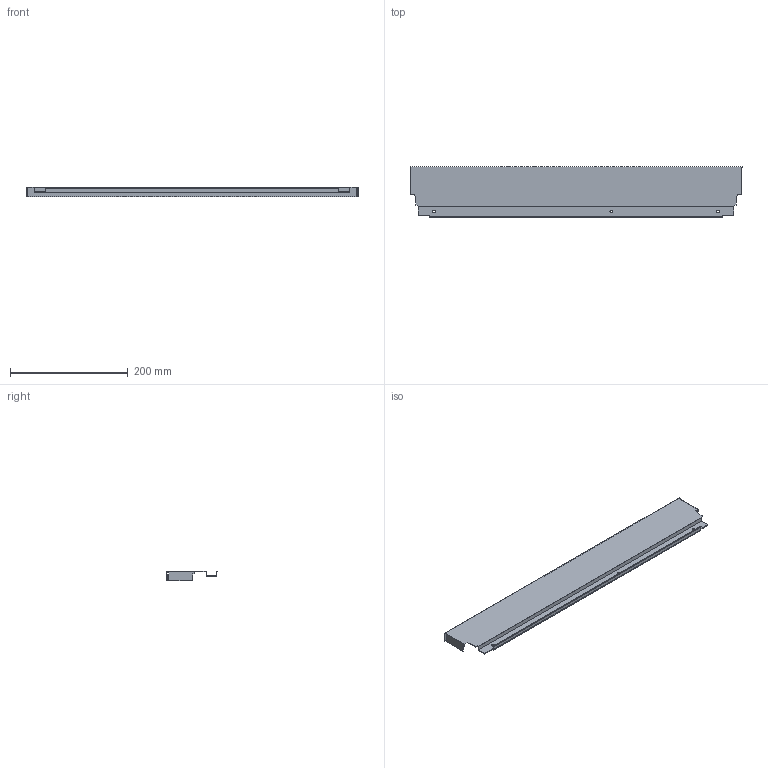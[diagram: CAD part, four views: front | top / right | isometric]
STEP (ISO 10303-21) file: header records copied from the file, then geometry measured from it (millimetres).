
FILE_DESCRIPTION (( 'STEP AP214' ), '1' );
FILE_NAME ('_DWD_XP Stahlrückwand_H86_KAB650_S18.step', '2010-07-08T12:10:22', ( 'grass' ), ( '' ), 'SwSTEP 2.0', 'SolidWorks 2010', '' );
FILE_SCHEMA (( 'AUTOMOTIVE_DESIGN' ));
Length unit declared in the file: millimetre
Products named in the file (1): _DWD_XP Stahlrückwand_H86_KAB650_S18
Bounding box: 565 x 85.79 x 16 mm (x, y, z)
Volume: 60229.4 mm3; surface area: 131185.6 mm2
Topology: 1 solids, 1 shells, 50 faces, 144 edges, 96 vertices
Faces by surface type: plane 44, cylinder 6
Entity records: 1666 total; most frequent: CARTESIAN_POINT 291, ORIENTED_EDGE 288, DIRECTION 258, EDGE_CURVE 144, VECTOR 132, LINE 132, VERTEX_POINT 96, AXIS2_PLACEMENT_3D 63
